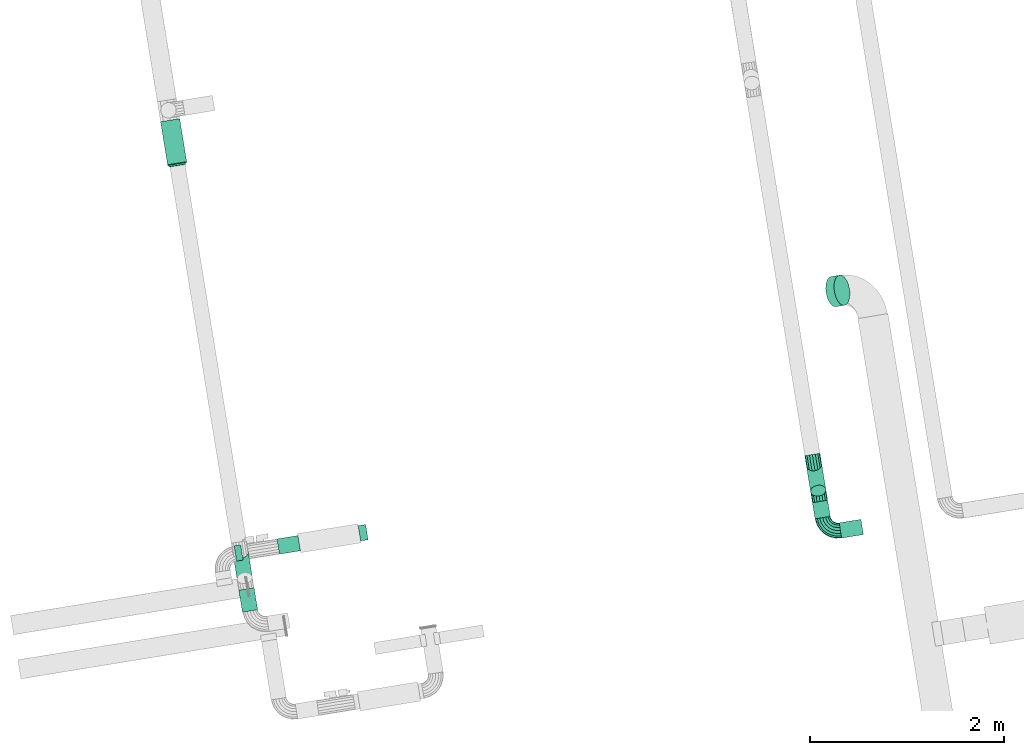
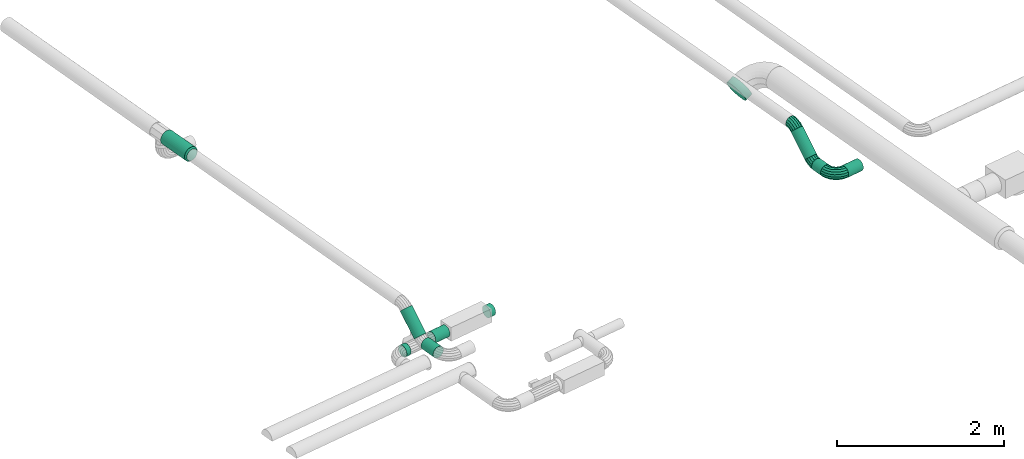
# One storey, part 7 of 19: 10 flow segments, 4 flow fittings.
"""IFC2X3 building model written with IfcOpenShell, lengths in millimetres."""

from ifc_helpers import new_model, entity, si_unit, converted_unit, derived_unit, direction, frame, frame_2d, origin, origin_with_axes, origin_2d_with_axis, place, context, subcontext, project, spatial, circle, extrude, faceted_brep, source, transform, mapped, material, type_object, element, save


model = new_model("IFC2X3")

# Units and contexts
model_context = context("Model", 3, precision=0.01, world=origin(), true_north=direction((6.12323399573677e-17, 1.0)))
plan_context = context("Plan", 3, precision=1e-05, world=origin_with_axes())
body_context = subcontext(model_context, "Body", "Model", "MODEL_VIEW")
ifc_project = project(units=[converted_unit("PLANEANGLEUNIT", "DEGREE", entity("IfcPositiveLengthMeasure", 0.0174532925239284), si_unit("PLANEANGLEUNIT", "RADIAN"), dimensions=[0, 0, 0, 0, 0, 0, 0]), si_unit("AREAUNIT", "SQUARE_METRE"), si_unit("LENGTHUNIT", "METRE", prefix="MILLI"), si_unit("MASSUNIT", "GRAM", prefix="KILO"), si_unit("POWERUNIT", "WATT"), si_unit("PRESSUREUNIT", "PASCAL", prefix="KILO"), si_unit("FORCEUNIT", "NEWTON", prefix="KILO"), si_unit("ELECTRICVOLTAGEUNIT", "VOLT"), si_unit("ELECTRICCURRENTUNIT", "AMPERE"), si_unit("THERMODYNAMICTEMPERATUREUNIT", "DEGREE_CELSIUS"), si_unit("TIMEUNIT", "SECOND"), si_unit("VOLUMEUNIT", "CUBIC_METRE"), derived_unit("LINEARVELOCITYUNIT", [(si_unit("LENGTHUNIT", "METRE"), 1), (si_unit("TIMEUNIT", "SECOND"), -1)]), derived_unit("VOLUMETRICFLOWRATEUNIT", [(si_unit("VOLUMEUNIT", "CUBIC_METRE"), 1), (si_unit("TIMEUNIT", "SECOND"), -1)]), derived_unit("THERMALTRANSMITTANCEUNIT", [(si_unit("POWERUNIT", "WATT"), 1), (si_unit("THERMODYNAMICTEMPERATUREUNIT", "KELVIN"), -1), (si_unit("AREAUNIT", "SQUARE_METRE"), -1)]), derived_unit("SOUNDPRESSUREUNIT", [(si_unit("PRESSUREUNIT", "PASCAL"), 1)])], contexts=[model_context, plan_context])

# Site, building, storey
site_placement = place(None, frame((5.09380697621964e-08, 5.80416781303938e-08, 0.0), z_axis=(0.0, 0.0, 1.0), x_axis=(-0.160806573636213, 0.986985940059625, 0.0)))
site = spatial("IfcSite", under=ifc_project, at=site_placement, Name="Default", CompositionType="ELEMENT")
building_placement = place(site_placement, frame((0.0, 0.0, 0.0), z_axis=(0.0, 0.0, 1.0), x_axis=(1.0, -2.77555756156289e-17, 0.0)))
building = spatial("IfcBuilding", under=site, at=building_placement, Name="Bygning (endres i Project Information)", CompositionType="ELEMENT")
storey_placement = place(building_placement, frame((0.0, 0.0, 51360.0000000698), z_axis=(0.0, 0.0, 1.0), x_axis=(1.0, -2.77555756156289e-17, 0.0)))
storey = spatial("IfcBuildingStorey", under=building, at=storey_placement, Name="H01-Nivå D+0,36", CompositionType="ELEMENT", Elevation=51360.0000000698)

# Flow fittings
ifc_material_1 = material(Name="Material_Duct")
duct_fitting_type_1 = type_object("IfcDuctFittingType", Name="magicirc_reduction_NOR:magicirc_reduction_NOR", PredefinedType="NOTDEFINED", material=ifc_material_1)
shared_shape_1 = source(origin(), body_context, "Body", "Brep", [
    faceted_brep([(20.0000000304, -80.0000001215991, 0.0), (20.0000000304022, -76.9551814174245, -15.3073373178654), (20.0000000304, -73.9103627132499, -30.614674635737), (20.0000000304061, -65.2394526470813, -43.5916086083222), (20.0000000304, -56.5685425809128, -56.5685425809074), (20.0000000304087, -43.5916086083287, -65.2394526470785), (20.0000000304, -30.6146746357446, -73.9103627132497), (20.0000000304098, -15.307337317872, -76.9551814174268), (20.0000000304, 0.0, -80.000000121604), (20.0000000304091, 15.3073373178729, -76.9551814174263), (20.0000000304, 30.6146746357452, -73.9103627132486), (20.0000000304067, 43.5916086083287, -65.2394526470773), (20.0000000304, 56.5685425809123, -56.568542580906), (20.000000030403, 65.2394526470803, -43.5916086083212), (20.0000000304, 73.9103627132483, -30.6146746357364), (20.0000000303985, 76.9551814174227, -15.3073373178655), (20.0000000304, 80.000000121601, 0.0), (20.0000000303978, 76.9551814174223, 15.3073373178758), (20.0000000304, 73.9103627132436, 30.6146746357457), (20.0000000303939, 65.2394526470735, 43.591608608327), (20.0000000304, 56.5685425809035, 56.5685425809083), (20.0000000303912, 43.5916086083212, 65.239452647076), (20.0000000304, 30.6146746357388, 73.9103627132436), (20.0000000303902, 15.3073373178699, 76.9551814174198), (20.0000000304, 0.0, 80.000000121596), (20.0000000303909, -15.3073373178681, 76.9551814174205), (20.0000000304, -30.6146746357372, 73.910362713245), (20.0000000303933, -43.5916086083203, 65.2394526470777), (20.0000000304, -56.5685425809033, 56.5685425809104), (20.000000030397, -65.2394526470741, 43.5916086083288), (20.0000000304, -73.9103627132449, 30.6146746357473), (20.0000000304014, -76.9551814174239, 15.3073373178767), (0.0, 100.000000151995, 0.0), (0.0, 93.9692622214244, -34.2020143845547), (0.0, 76.6044444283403, -64.2787610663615), (0.0, 50.0000000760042, -86.6025405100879), (0.0, 17.3648177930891, -98.4807754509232), (0.0, -17.3648177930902, -98.4807754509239), (0.0, -50.0000000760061, -86.6025405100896), (0.0, -76.6044444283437, -64.278761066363), (0.0, -93.9692622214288, -34.2020143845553), (0.0, -100.000000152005, 0.0), (0.0, -93.9692622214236, 34.2020143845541), (0.0, -76.6044444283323, 64.2787610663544), (0.0, -50.0000000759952, 86.6025405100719), (0.0, -17.3648177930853, 98.4807754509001), (0.0, 17.3648177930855, 98.4807754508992), (0.0, 50.0000000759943, 86.6025405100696), (0.0, 76.6044444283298, 64.2787610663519), (0.0, 93.9692622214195, 34.2020143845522)], [[[0, 1, 2, 3, 4, 5, 6, 7, 8, 9, 10, 11, 12, 13, 14, 15, 16, 17, 18, 19, 20, 21, 22, 23, 24, 25, 26, 27, 28, 29, 30, 31]], [[32, 33, 34, 35, 36, 37, 38, 39, 40, 41, 42, 43, 44, 45, 46, 47, 48, 49]], [[32, 15, 33]], [[33, 13, 34]], [[15, 32, 16]], [[40, 2, 1]], [[35, 12, 11, 10]], [[13, 12, 34]], [[13, 33, 14]], [[10, 36, 35]], [[37, 8, 7, 6]], [[39, 4, 3]], [[9, 8, 36, 10]], [[12, 35, 34]], [[15, 14, 33]], [[38, 6, 5, 4]], [[41, 1, 0]], [[40, 3, 2]], [[6, 38, 37]], [[38, 4, 39]], [[39, 3, 40]], [[40, 1, 41]], [[8, 37, 36]], [[41, 31, 42]], [[42, 29, 43]], [[31, 41, 0]], [[49, 18, 17]], [[44, 28, 27, 26]], [[29, 28, 43]], [[29, 42, 30]], [[26, 45, 44]], [[46, 24, 23, 22]], [[48, 20, 19]], [[25, 24, 45, 26]], [[28, 44, 43]], [[31, 30, 42]], [[47, 22, 21, 20]], [[32, 17, 16]], [[49, 19, 18]], [[22, 47, 46]], [[47, 20, 48]], [[48, 19, 49]], [[49, 17, 32]], [[24, 46, 45]]]),
])
flow_fitting_1_placement = place(storey_placement, frame((1013151.27971628, -386501.39713563, 3799.99999996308), z_axis=(0.0, 0.0, 1.0), x_axis=(-1.0, 2.77555756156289e-17, 0.0)))
element("IfcFlowFitting", 1, at=flow_fitting_1_placement, inside=storey, type_object=duct_fitting_type_1, material=ifc_material_1, Name="magicirc_reduction_NOR:magicirc_reduction_NOR", ObjectType="magicirc_reduction_NOR:magicirc_reduction_NOR", context=body_context, shape_type="MappedRepresentation", body=[
    mapped(shared_shape_1, transform((0.0, 0.0, 0.0), scale=1.0)),
])
ifc_material_2 = material(Name="3601.001 Tilluft")
duct_fitting_type_2 = type_object("IfcDuctFittingType", Name="magicirc_elbow_full_radius_NOR:magicirc_elbow_full_radius_NOR", PredefinedType="NOTDEFINED", material=ifc_material_2)
shared_shape_2 = source(origin(), body_context, "Body", "Brep", [
    faceted_brep([(-4.15759916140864, -71.822198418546, 0.0), (-5.73371330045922, -65.9400603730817, 30.6146746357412), (-66.2741700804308, -73.9103627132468, 30.6146746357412), (-66.2741700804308, -80.0000001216, 0.0), (-10.2221066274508, -49.1891484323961, 56.5685425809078), (-66.2741700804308, -56.5685425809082, 56.5685425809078), (-16.9394619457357, -24.1196370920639, 73.9103627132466), (-66.2741700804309, -30.6146746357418, 73.9103627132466), (-24.8631228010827, 5.45186780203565, 80.0000001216), (-66.2741700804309, 0.0, 80.0000001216), (-32.7867836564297, 35.0233726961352, 73.9103627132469), (-66.274170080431, 30.6146746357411, 73.9103627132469), (-39.5041389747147, 60.0928840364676, 56.5685425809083), (-66.274170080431, 56.5685425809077, 56.5685425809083), (-43.9925323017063, 76.8437959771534, 30.6146746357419), (-66.274170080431, 73.9103627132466, 30.6146746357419), (-45.5686464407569, 82.725934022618, 0.0), (-66.274170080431, 80.0000001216, 0.0), (-43.9925323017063, 76.8437959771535, -30.6146746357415), (-66.274170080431, 73.9103627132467, -30.6146746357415), (-39.5041389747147, 60.0928840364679, -56.568542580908), (-66.274170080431, 56.568542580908, -56.568542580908), (-32.7867836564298, 35.0233726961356, -73.9103627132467), (-66.274170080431, 30.6146746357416, -73.9103627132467), (-24.8631228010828, 5.45186780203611, -80.0000001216), (-66.2741700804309, 0.0, -80.0000001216), (-16.9394619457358, -24.1196370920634, -73.9103627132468), (-66.2741700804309, -30.6146746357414, -73.9103627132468), (-10.2221066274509, -49.1891484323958, -56.5685425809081), (-66.2741700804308, -56.5685425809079, -56.5685425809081), (-5.73371330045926, -65.9400603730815, -30.6146746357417), (-66.2741700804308, -73.9103627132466, -30.6146746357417), (53.7258301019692, -47.8460969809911, 0.0), (50.6810113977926, -42.5723162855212, 30.6146746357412), (42.0101013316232, -27.5538595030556, 56.5685425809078), (29.03316735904, -5.07715053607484, 73.9103627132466), (13.7258300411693, 21.4359354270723, 80.0000001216), (-1.58150727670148, 47.9490213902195, 73.9103627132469), (-14.5584412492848, 70.4257303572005, 56.5685425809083), (-23.2293513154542, 85.4441871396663, 30.6146746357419), (-26.274170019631, 90.7179678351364, 0.0), (-23.2293513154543, 85.4441871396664, -30.6146746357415), (-14.558441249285, 70.4257303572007, -56.568542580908), (-1.5815072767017, 47.9490213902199, -73.9103627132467), (13.725830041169, 21.4359354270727, -80.0000001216), (29.0331673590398, -5.07715053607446, -73.9103627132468), (42.0101013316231, -27.5538595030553, -56.5685425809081), (50.6810113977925, -42.5723162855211, -30.6146746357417), (103.431457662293, -9.70562749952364, 0.0), (99.1254337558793, -5.39960359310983, 30.6146746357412), (86.8629151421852, 6.86291502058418, 56.5685425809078), (68.5107591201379, 25.2150710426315, 73.9103627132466), (46.8629150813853, 46.8629150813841, 80.0000001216), (25.2150710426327, 68.5107591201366, 73.9103627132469), (6.86291502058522, 86.8629151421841, 56.5685425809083), (-5.39960359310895, 99.1254337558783, 30.6146746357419), (-9.70562749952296, 103.431457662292, 0.0), (-5.39960359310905, 99.1254337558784, -30.6146746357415), (6.86291502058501, 86.8629151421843, -56.568542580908), (25.2150710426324, 68.510759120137, -73.9103627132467), (46.862915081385, 46.8629150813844, -80.0000001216), (68.5107591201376, 25.2150710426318, -73.9103627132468), (86.862915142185, 6.8629150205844, -56.5685425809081), (99.1254337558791, -5.3996035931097, -30.6146746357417)], [[[0, 1, 2, 3]], [[1, 4, 5, 2]], [[4, 6, 7, 5]], [[6, 8, 9, 7]], [[8, 10, 11, 9]], [[10, 12, 13, 11]], [[12, 14, 15, 13]], [[14, 16, 17, 15]], [[16, 18, 19, 17]], [[18, 20, 21, 19]], [[20, 22, 23, 21]], [[22, 24, 25, 23]], [[24, 26, 27, 25]], [[26, 28, 29, 27]], [[28, 30, 31, 29]], [[30, 0, 3, 31]], [[32, 33, 1, 0]], [[33, 34, 4, 1]], [[34, 35, 6, 4]], [[35, 36, 8, 6]], [[36, 37, 10, 8]], [[37, 38, 12, 10]], [[38, 39, 14, 12]], [[39, 40, 16, 14]], [[40, 41, 18, 16]], [[41, 42, 20, 18]], [[42, 43, 22, 20]], [[43, 44, 24, 22]], [[44, 45, 26, 24]], [[45, 46, 28, 26]], [[46, 47, 30, 28]], [[47, 32, 0, 30]], [[48, 49, 33, 32]], [[49, 50, 34, 33]], [[50, 51, 35, 34]], [[51, 52, 36, 35]], [[52, 53, 37, 36]], [[53, 54, 38, 37]], [[54, 55, 39, 38]], [[55, 56, 40, 39]], [[56, 57, 41, 40]], [[57, 58, 42, 41]], [[58, 59, 43, 42]], [[59, 60, 44, 43]], [[60, 61, 45, 44]], [[61, 62, 46, 45]], [[62, 63, 47, 46]], [[63, 48, 32, 47]], [[3, 2, 5, 7, 9, 11, 13, 15, 17, 19, 21, 23, 25, 27, 29, 31]], [[63, 62, 61, 60, 59, 58, 57, 56, 55, 54, 53, 52, 51, 50, 49, 48]]]),
])
for number, where, z_axis, x_axis, name in (
    (2, (1009062.88550786, -392493.89713582, 3799.99999993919), (-2.77555756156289e-17, -1.0, 0.0), (-1.0, 2.77555756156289e-17, 0.0), "magicirc_elbow_full_radius_NOR:magicirc_elbow_full_radius_NOR"),
    (3, (1008704.24568926, -392493.89713582, 3441.36018133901), (0.0, 1.0, 0.0), (-0.707106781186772, 0.0, -0.707106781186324), "magicirc_elbow_full_radius_NOR:magicirc_elbow_full_radius_NOR"),
):
    element("IfcFlowFitting", number, at=place(storey_placement, frame(where, z_axis=z_axis, x_axis=x_axis)), inside=storey, type_object=duct_fitting_type_2, material=ifc_material_2, Name=name, ObjectType="magicirc_elbow_full_radius_NOR:magicirc_elbow_full_radius_NOR", context=body_context, shape_type="MappedRepresentation", body=[
        mapped(shared_shape_2, transform((0.0, 0.0, 0.0), scale=1.0)),
    ])
duct_fitting_type_3 = type_object("IfcDuctFittingType", Name="magicirc_elbow_full_radius_NOR:magicirc_elbow_full_radius_NOR", PredefinedType="NOTDEFINED", material=ifc_material_2)
shared_shape_3 = source(origin(), body_context, "Body", "Brep", [
    faceted_brep([(-97.8834293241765, -71.822198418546, 0.0), (-99.4595434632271, -65.9400603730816, 30.6146746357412), (-160.000000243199, -73.9103627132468, 30.6146746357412), (-160.000000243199, -80.0000001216, 0.0), (-103.947936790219, -49.189148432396, 56.5685425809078), (-160.000000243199, -56.5685425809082, 56.5685425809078), (-110.665292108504, -24.1196370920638, 73.9103627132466), (-160.000000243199, -30.6146746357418, 73.9103627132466), (-118.588952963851, 5.45186780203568, 80.0000001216), (-160.000000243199, 0.0, 80.0000001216), (-126.512613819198, 35.0233726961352, 73.9103627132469), (-160.000000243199, 30.6146746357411, 73.9103627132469), (-133.229969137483, 60.0928840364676, 56.5685425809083), (-160.000000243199, 56.5685425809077, 56.5685425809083), (-137.718362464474, 76.8437959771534, 30.6146746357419), (-160.000000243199, 73.9103627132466, 30.6146746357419), (-139.294476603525, 82.725934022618, 0.0), (-160.000000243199, 80.0000001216, 0.0), (-137.718362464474, 76.8437959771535, -30.6146746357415), (-160.000000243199, 73.9103627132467, -30.6146746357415), (-133.229969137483, 60.0928840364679, -56.568542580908), (-160.000000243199, 56.568542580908, -56.568542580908), (-126.512613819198, 35.0233726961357, -73.9103627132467), (-160.000000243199, 30.6146746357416, -73.9103627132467), (-118.588952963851, 5.45186780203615, -80.0000001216), (-160.000000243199, 0.0, -80.0000001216), (-110.665292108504, -24.1196370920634, -73.9103627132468), (-160.000000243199, -30.6146746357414, -73.9103627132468), (-103.947936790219, -49.1891484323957, -56.5685425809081), (-160.000000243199, -56.5685425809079, -56.5685425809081), (-99.4595434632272, -65.9400603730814, -30.6146746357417), (-160.000000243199, -73.9103627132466, -30.6146746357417), (-40.0000000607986, -47.846096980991, 0.0), (-43.0448187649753, -42.5723162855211, 30.6146746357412), (-51.7157288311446, -27.5538595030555, 56.5685425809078), (-64.6926628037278, -5.07715053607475, 73.9103627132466), (-80.0000001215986, 21.4359354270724, 80.0000001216), (-95.3073374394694, 47.9490213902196, 73.9103627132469), (-108.284271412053, 70.4257303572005, 56.5685425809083), (-116.955181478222, 85.4441871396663, 30.6146746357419), (-120.000000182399, 90.7179678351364, 0.0), (-116.955181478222, 85.4441871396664, -30.6146746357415), (-108.284271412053, 70.4257303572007, -56.568542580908), (-95.3073374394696, 47.94902139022, -73.9103627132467), (-80.0000001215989, 21.4359354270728, -80.0000001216), (-64.6926628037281, -5.07715053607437, -73.9103627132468), (-51.7157288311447, -27.5538595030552, -56.5685425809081), (-43.0448187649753, -42.5723162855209, -30.6146746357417), (9.70562749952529, -9.70562749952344, 0.0), (5.39960359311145, -5.39960359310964, 30.6146746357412), (-6.86291502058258, 6.86291502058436, 56.5685425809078), (-25.21507104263, 25.2150710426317, 73.9103627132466), (-46.8629150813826, 46.8629150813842, 80.0000001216), (-68.5107591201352, 68.5107591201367, 73.9103627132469), (-86.8629151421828, 86.8629151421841, 56.5685425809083), (-99.125433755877, 99.1254337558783, 30.6146746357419), (-103.431457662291, 103.431457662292, 0.0), (-99.1254337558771, 99.1254337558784, -30.6146746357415), (-86.862915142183, 86.8629151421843, -56.568542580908), (-68.5107591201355, 68.510759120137, -73.9103627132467), (-46.8629150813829, 46.8629150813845, -80.0000001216), (-25.2150710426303, 25.215071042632, -73.9103627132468), (-6.8629150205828, 6.86291502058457, -56.5685425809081), (5.39960359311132, -5.39960359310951, -30.6146746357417), (47.8460969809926, 40.0000000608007, 0.0), (42.5723162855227, 43.0448187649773, 30.6146746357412), (27.553859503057, 51.7157288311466, 56.5685425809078), (5.07715053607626, 64.6926628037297, 73.9103627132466), (-21.435935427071, 80.0000001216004, 80.0000001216), (-47.9490213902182, 95.307337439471, 73.9103627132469), (-70.4257303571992, 108.284271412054, 56.5685425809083), (-85.444187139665, 116.955181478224, 30.6146746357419), (-90.7179678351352, 120.0000001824, 0.0), (-85.4441871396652, 116.955181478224, -30.6146746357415), (-70.4257303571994, 108.284271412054, -56.568542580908), (-47.9490213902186, 95.3073374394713, -73.9103627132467), (-21.4359354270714, 80.0000001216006, -80.0000001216), (5.07715053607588, 64.6926628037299, -73.9103627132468), (27.5538595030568, 51.7157288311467, -56.5685425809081), (42.5723162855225, 43.0448187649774, -30.6146746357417), (71.8221984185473, 97.8834293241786, 0.0), (65.9400603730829, 99.4595434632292, 30.6146746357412), (49.1891484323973, 103.947936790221, 56.5685425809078), (24.1196370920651, 110.665292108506, 73.9103627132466), (-5.45186780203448, 118.588952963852, 80.0000001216), (-35.0233726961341, 126.512613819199, 73.9103627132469), (-60.0928840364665, 133.229969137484, 56.5685425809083), (-76.8437959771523, 137.718362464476, 30.6146746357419), (-82.7259340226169, 139.294476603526, 0.0), (-76.8437959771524, 137.718362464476, -30.6146746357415), (-60.0928840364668, 133.229969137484, -56.568542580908), (-35.0233726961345, 126.512613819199, -73.9103627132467), (-5.45186780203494, 118.588952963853, -80.0000001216), (24.1196370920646, 110.665292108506, -73.9103627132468), (49.189148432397, 103.947936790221, -56.5685425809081), (65.9400603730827, 99.4595434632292, -30.6146746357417), (80.000000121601, 160.000000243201, 0.0), (73.9103627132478, 160.000000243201, 30.6146746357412), (56.5685425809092, 160.000000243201, 56.5685425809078), (30.6146746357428, 160.000000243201, 73.9103627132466), (0.0, 160.000000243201, 80.0000001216), (-30.6146746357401, 160.000000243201, 73.9103627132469), (-56.5685425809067, 160.000000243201, 56.5685425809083), (-73.9103627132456, 160.000000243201, 30.6146746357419), (-80.000000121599, 160.000000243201, 0.0), (-73.9103627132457, 160.000000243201, -30.6146746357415), (-56.568542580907, 160.000000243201, -56.568542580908), (-30.6146746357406, 160.000000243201, -73.9103627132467), (0.0, 160.000000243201, -80.0000001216), (30.6146746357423, 160.000000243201, -73.9103627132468), (56.5685425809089, 160.000000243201, -56.5685425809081), (73.9103627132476, 160.000000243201, -30.6146746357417)], [[[0, 1, 2, 3]], [[1, 4, 5, 2]], [[4, 6, 7, 5]], [[6, 8, 9, 7]], [[8, 10, 11, 9]], [[10, 12, 13, 11]], [[12, 14, 15, 13]], [[14, 16, 17, 15]], [[16, 18, 19, 17]], [[18, 20, 21, 19]], [[20, 22, 23, 21]], [[22, 24, 25, 23]], [[24, 26, 27, 25]], [[26, 28, 29, 27]], [[28, 30, 31, 29]], [[30, 0, 3, 31]], [[32, 33, 1, 0]], [[33, 34, 4, 1]], [[34, 35, 6, 4]], [[35, 36, 8, 6]], [[36, 37, 10, 8]], [[37, 38, 12, 10]], [[38, 39, 14, 12]], [[39, 40, 16, 14]], [[40, 41, 18, 16]], [[41, 42, 20, 18]], [[42, 43, 22, 20]], [[43, 44, 24, 22]], [[44, 45, 26, 24]], [[45, 46, 28, 26]], [[46, 47, 30, 28]], [[47, 32, 0, 30]], [[48, 49, 33, 32]], [[49, 50, 34, 33]], [[50, 51, 35, 34]], [[51, 52, 36, 35]], [[52, 53, 37, 36]], [[53, 54, 38, 37]], [[54, 55, 39, 38]], [[55, 56, 40, 39]], [[56, 57, 41, 40]], [[57, 58, 42, 41]], [[58, 59, 43, 42]], [[59, 60, 44, 43]], [[60, 61, 45, 44]], [[61, 62, 46, 45]], [[62, 63, 47, 46]], [[63, 48, 32, 47]], [[64, 65, 49, 48]], [[65, 66, 50, 49]], [[66, 67, 51, 50]], [[67, 68, 52, 51]], [[68, 69, 53, 52]], [[69, 70, 54, 53]], [[70, 71, 55, 54]], [[71, 72, 56, 55]], [[72, 73, 57, 56]], [[73, 74, 58, 57]], [[74, 75, 59, 58]], [[75, 76, 60, 59]], [[76, 77, 61, 60]], [[77, 78, 62, 61]], [[78, 79, 63, 62]], [[79, 64, 48, 63]], [[80, 81, 65, 64]], [[81, 82, 66, 65]], [[82, 83, 67, 66]], [[83, 84, 68, 67]], [[84, 85, 69, 68]], [[85, 86, 70, 69]], [[86, 87, 71, 70]], [[87, 88, 72, 71]], [[88, 89, 73, 72]], [[89, 90, 74, 73]], [[90, 91, 75, 74]], [[91, 92, 76, 75]], [[92, 93, 77, 76]], [[93, 94, 78, 77]], [[94, 95, 79, 78]], [[95, 80, 64, 79]], [[96, 97, 81, 80]], [[97, 98, 82, 81]], [[98, 99, 83, 82]], [[99, 100, 84, 83]], [[100, 101, 85, 84]], [[101, 102, 86, 85]], [[102, 103, 87, 86]], [[103, 104, 88, 87]], [[104, 105, 89, 88]], [[105, 106, 90, 89]], [[106, 107, 91, 90]], [[107, 108, 92, 91]], [[108, 109, 93, 92]], [[109, 110, 94, 93]], [[110, 111, 95, 94]], [[111, 96, 80, 95]], [[3, 2, 5, 7, 9, 11, 13, 15, 17, 19, 21, 23, 25, 27, 29, 31]], [[111, 110, 109, 108, 107, 106, 105, 104, 103, 102, 101, 100, 99, 98, 97, 96]]]),
])
flow_fitting_2_placement = place(storey_placement, frame((1008308.49004626, -392493.89713582, 3441.36018133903), z_axis=(0.0, 0.0, 1.0), x_axis=(-1.0, 2.77555756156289e-17, 0.0)))
element("IfcFlowFitting", 4, at=flow_fitting_2_placement, inside=storey, type_object=duct_fitting_type_3, material=ifc_material_2, Name="magicirc_elbow_full_radius_NOR:magicirc_elbow_full_radius_NOR", ObjectType="magicirc_elbow_full_radius_NOR:magicirc_elbow_full_radius_NOR", context=body_context, shape_type="MappedRepresentation", body=[
    mapped(shared_shape_3, transform((0.0, 0.0, 0.0), scale=1.0)),
])

# Flow segments
duct_segment_type = type_object("IfcDuctSegmentType", Name="Round Duct:Sirkulær kanal", PredefinedType="NOTDEFINED", material=ifc_material_2)
flow_segment_1_placement = place(storey_placement, frame((0.0, 0.0, 0.0), z_axis=(0.0, 0.0, 1.0), x_axis=(1.0, -2.77555756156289e-17, 0.0)))
element("IfcFlowSegment", 5, at=flow_segment_1_placement, inside=storey, type_object=duct_segment_type, Name="Round Duct:Sirkulær kanal", ObjectType="Round Duct:Sirkulær kanal", context=body_context, shape_type="SweptSolid", body=[
    extrude(circle(Radius=100.000000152, at=origin_2d_with_axis()), frame((1013151.27971628, -386501.39713563, 3799.99999996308), z_axis=(1.0, 0.0, 0.0), x_axis=(0.0, 1.0, 0.0)), (0.0, 0.0, 1.0), 452.710329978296),
])
flow_segment_2_placement = place(storey_placement, frame((0.0, 0.0, 0.0), z_axis=(0.0, 0.0, 1.0), x_axis=(1.0, -2.77555756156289e-17, 0.0)))
element("IfcFlowSegment", 6, at=flow_segment_2_placement, inside=storey, type_object=duct_segment_type, Name="Round Duct:Sirkulær kanal", ObjectType="Round Duct:Sirkulær kanal", context=body_context, shape_type="SweptSolid", body=[
    extrude(circle(Radius=80.0000001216, at=frame_2d((-9.59352042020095e-24, 1.10261187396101e-10), x_axis=(1.0, 0.0))), frame((1008812.21314272, -386501.39713563, 3488.22309642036), z_axis=(0.707106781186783, 0.0, 0.707106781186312), x_axis=(0.0, 1.0, 0.0)), (0.0, 0.0, 1.0), 374.644955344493),
])
flow_segment_3_placement = place(storey_placement, frame((0.0, 0.0, 0.0), z_axis=(0.0, 0.0, 1.0), x_axis=(1.0, -2.77555756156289e-17, 0.0)))
element("IfcFlowSegment", 7, at=flow_segment_3_placement, inside=storey, type_object=duct_segment_type, Name="Round Duct:Sirkulær kanal", ObjectType="Round Duct:Sirkulær kanal", context=body_context, shape_type="SweptSolid", body=[
    extrude(circle(Radius=80.0000001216, at=frame_2d((-1.07330174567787e-20, 8.72271129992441e-08), x_axis=(1.0, 0.0))), frame((1008468.4900465, -386501.39713563, 3441.3601814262), z_axis=(1.0, 0.0, 0.0), x_axis=(0.0, 1.0, 0.0)), (0.0, 0.0, 1.0), 230.586011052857),
])
flow_segment_4_placement = place(storey_placement, frame((0.0, 0.0, 0.0), z_axis=(0.0, 0.0, 1.0), x_axis=(1.0, -2.77555756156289e-17, 0.0)))
element("IfcFlowSegment", 8, at=flow_segment_4_placement, inside=storey, type_object=duct_segment_type, Name="Round Duct:Sirkulær kanal", ObjectType="Round Duct:Sirkulær kanal", context=body_context, shape_type="SweptSolid", body=[
    extrude(circle(Radius=80.0000001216, at=frame_2d((-7.99460035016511e-24, 9.18843228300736e-11), x_axis=(1.0, 0.0))), frame((1008751.10860434, -392493.89713582, 3488.22309642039), z_axis=(0.707106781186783, 0.0, 0.707106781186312), x_axis=(0.0, 1.0, 0.0)), (0.0, 0.0, 1.0), 374.644955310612),
])
flow_segment_5_placement = place(storey_placement, frame((0.0, 0.0, 0.0), z_axis=(0.0, 0.0, 1.0), x_axis=(1.0, -2.77555756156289e-17, 0.0)))
element("IfcFlowSegment", 9, at=flow_segment_5_placement, inside=storey, type_object=duct_segment_type, Name="Round Duct:Sirkulær kanal", ObjectType="Round Duct:Sirkulær kanal", context=body_context, shape_type="SweptSolid", body=[
    extrude(circle(Radius=80.0000001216, at=frame_2d((-7.88907162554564e-21, 6.41143969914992e-08), x_axis=(1.0, 0.0))), frame((1008468.4900465, -392493.89713582, 3441.36018140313), z_axis=(1.0, 0.0, 0.0), x_axis=(0.0, 1.0, 0.0)), (0.0, 0.0, 1.0), 169.481472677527),
])
flow_segment_6_placement = place(storey_placement, frame((0.0, 0.0, 0.0), z_axis=(0.0, 0.0, 1.0), x_axis=(1.0, -2.77555756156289e-17, 0.0)))
element("IfcFlowSegment", 10, at=flow_segment_6_placement, inside=storey, type_object=duct_segment_type, Name="Round Duct:Sirkulær kanal", ObjectType="Round Duct:Sirkulær kanal", context=body_context, shape_type="SweptSolid", body=[
    extrude(circle(Radius=80.0000001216, at=frame_2d((0.0, 8.66293703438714e-12), x_axis=(1.0, 0.0))), frame((1008308.49004626, -392881.39713563, 3441.36018133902), z_axis=(0.0, 1.0, 0.0), x_axis=(-1.0, 0.0, 0.0)), (0.0, 0.0, 1.0), 227.499999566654),
])
flow_segment_7_placement = place(storey_placement, frame((0.0, 0.0, 0.0), z_axis=(0.0, 0.0, 1.0), x_axis=(1.0, -2.77555756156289e-17, 0.0)))
element("IfcFlowSegment", 11, at=flow_segment_7_placement, inside=storey, type_object=duct_segment_type, Name="Round Duct:Sirkulær kanal", ObjectType="Round Duct:Sirkulær kanal", context=body_context, shape_type="SweptSolid", body=[
    extrude(circle(Radius=80.0000001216, at=origin_2d_with_axis()), frame((1009078.36764293, -387823.384762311, 3150.0), z_axis=(0.0, 1.0, 0.0), x_axis=(-1.0, 0.0, 0.0)), (0.0, 0.0, 1.0), 78.5718447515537),
])
flow_segment_8_placement = place(storey_placement, frame((0.0, 0.0, 0.0), z_axis=(0.0, 0.0, 1.0), x_axis=(1.0, -2.77555756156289e-17, 0.0)))
element("IfcFlowSegment", 12, at=flow_segment_8_placement, inside=storey, type_object=duct_segment_type, Name="Round Duct:Sirkulær kanal", ObjectType="Round Duct:Sirkulær kanal", context=body_context, shape_type="SweptSolid", body=[
    extrude(circle(Radius=80.0000001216, at=origin_2d_with_axis()), frame((1009078.36764293, -387114.81291756, 3150.0), z_axis=(0.0, 1.0, 0.0), x_axis=(-1.0, 0.0, 0.0)), (0.0, 0.0, 1.0), 219.969714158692),
])
flow_segment_9_placement = place(storey_placement, frame((0.0, 0.0, 0.0), z_axis=(0.0, 0.0, 1.0), x_axis=(1.0, -2.77555756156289e-17, 0.0)))
element("IfcFlowSegment", 13, at=flow_segment_9_placement, inside=storey, type_object=duct_segment_type, Name="Round Duct:Sirkulær kanal", ObjectType="Round Duct:Sirkulær kanal", context=body_context, shape_type="SweptSolid", body=[
    extrude(circle(Radius=80.0000001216, at=frame_2d((0.0, 8.66293703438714e-12), x_axis=(1.0, 0.0))), frame((1009078.36764293, -386514.843203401, 3150.0), z_axis=(0.0, 1.0, 0.0), x_axis=(1.0, 0.0, 0.0)), (0.0, 0.0, 1.0), 67.4999997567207),
])
flow_segment_10_placement = place(storey_placement, frame((0.0, 0.0, 0.0), z_axis=(0.0, 0.0, 1.0), x_axis=(1.0, -2.77555756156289e-17, 0.0)))
element("IfcFlowSegment", 14, at=flow_segment_10_placement, inside=storey, type_object=duct_segment_type, Name="Round Duct:Sirkulær kanal", ObjectType="Round Duct:Sirkulær kanal", context=body_context, shape_type="SweptSolid", body=[
    extrude(circle(Radius=157.5000002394, at=frame_2d((0.0, -4.21540716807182e-11), x_axis=(1.0, 0.0))), frame((1010755.09491528, -393068.370776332, 3192.49999976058), z_axis=(0.0, 0.866025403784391, -0.500000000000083), x_axis=(1.0, 0.0, 0.0)), (0.0, 0.0, 1.0), 100.596003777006),
])

save(model, "model.ifc")
